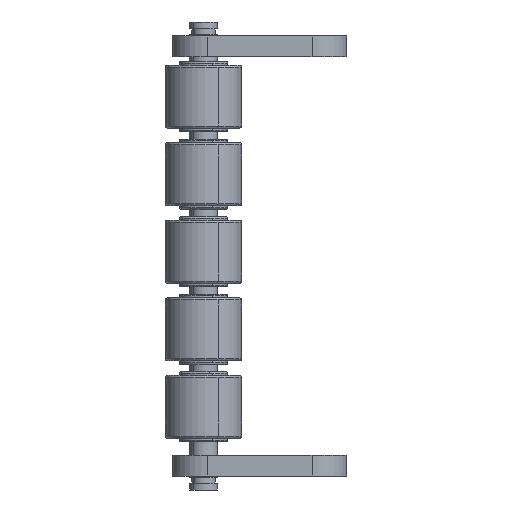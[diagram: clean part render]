
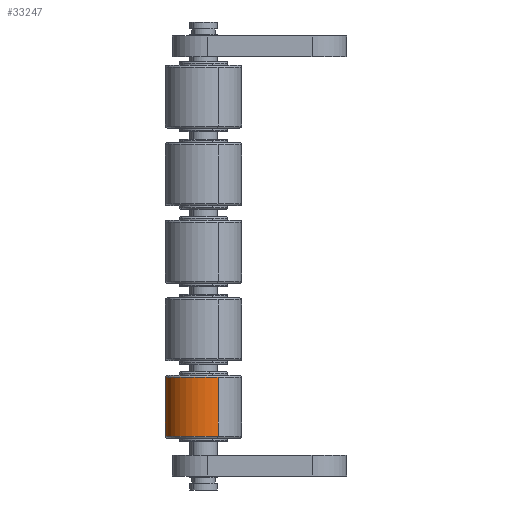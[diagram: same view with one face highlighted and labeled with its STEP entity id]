
A CAD part, left-side view. The second image highlights one B-rep face of the part: STEP entity #33247.
In plain terms, the highlighted cylindrical face has radius 5.5 mm (diameter 11 mm), a partial arc.
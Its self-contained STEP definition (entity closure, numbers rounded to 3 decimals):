
#3488 = CIRCLE ( 'NONE', #3527, 5.5 ) ;
#3489 = CARTESIAN_POINT ( 'NONE',  ( 116.925, -90.774, 21.075 ) ) ;
#3518 = DIRECTION ( 'NONE',  ( 0., 0., -1. ) ) ;
#3519 = AXIS2_PLACEMENT_3D ( 'NONE', #3528, #3518, #3577 ) ;
#3524 = CIRCLE ( 'NONE', #3519, 5.5 ) ;
#3525 = DIRECTION ( 'NONE',  ( 0.925, 0.379, 0. ) ) ;
#3526 = DIRECTION ( 'NONE',  ( 0., 0., -1. ) ) ;
#3527 = AXIS2_PLACEMENT_3D ( 'NONE', #3535, #3526, #3525 ) ;
#3528 = CARTESIAN_POINT ( 'NONE',  ( 122.014, -88.689, 21.075 ) ) ;
#3529 = CARTESIAN_POINT ( 'NONE',  ( 127.103, -86.604, 21.075 ) ) ;
#3535 = CARTESIAN_POINT ( 'NONE',  ( 122.014, -88.689, 21.075 ) ) ;
#3536 = CARTESIAN_POINT ( 'NONE',  ( 116.925, -90.774, 20.375 ) ) ;
#3537 = LINE ( 'NONE', #3536, #3551 ) ;
#3550 = DIRECTION ( 'NONE',  ( 0., 0., 1. ) ) ;
#3551 = VECTOR ( 'NONE', #3550, 1000. ) ;
#3558 = CARTESIAN_POINT ( 'NONE',  ( 116.925, -90.774, 12.675 ) ) ;
#3559 = CARTESIAN_POINT ( 'NONE',  ( 127.103, -86.604, 12.675 ) ) ;
#3574 = CIRCLE ( 'NONE', #3599, 5.5 ) ;
#3577 = DIRECTION ( 'NONE',  ( 0.925, 0.379, 0. ) ) ;
#3596 = DIRECTION ( 'NONE',  ( 0.925, 0.379, 0. ) ) ;
#3597 = DIRECTION ( 'NONE',  ( 0., 0., 1. ) ) ;
#3598 = CARTESIAN_POINT ( 'NONE',  ( 122.014, -88.689, 12.675 ) ) ;
#3599 = AXIS2_PLACEMENT_3D ( 'NONE', #3598, #3597, #3596 ) ;
#3663 = DIRECTION ( 'NONE',  ( 0., 0., 1. ) ) ;
#3664 = VECTOR ( 'NONE', #3663, 1000. ) ;
#3665 = CARTESIAN_POINT ( 'NONE',  ( 127.103, -86.604, 20.375 ) ) ;
#3666 = LINE ( 'NONE', #3665, #3664 ) ;
#3690 = FACE_OUTER_BOUND ( 'NONE', #33177, .T. ) ;
#3693 = DIRECTION ( 'NONE',  ( 0., 0., 1. ) ) ;
#3707 = AXIS2_PLACEMENT_3D ( 'NONE', #3746, #3693, #3731 ) ;
#3714 = CARTESIAN_POINT ( 'NONE',  ( 119.929, -83.599, 21.075 ) ) ;
#3728 = CYLINDRICAL_SURFACE ( 'NONE', #3707, 5.5 ) ;
#3731 = DIRECTION ( 'NONE',  ( 0.925, 0.379, 0. ) ) ;
#3746 = CARTESIAN_POINT ( 'NONE',  ( 122.014, -88.689, 20.375 ) ) ;
#32984 = ORIENTED_EDGE ( 'NONE', *, *, #33137, .T. ) ;
#33025 = ORIENTED_EDGE ( 'NONE', *, *, #33213, .F. ) ;
#33122 = EDGE_CURVE ( 'NONE', #33139, #33251, #3488, .T. ) ;
#33124 = VERTEX_POINT ( 'NONE', #3529 ) ;
#33125 = EDGE_CURVE ( 'NONE', #33251, #33124, #3524, .T. ) ;
#33131 = ORIENTED_EDGE ( 'NONE', *, *, #33122, .T. ) ;
#33132 = VERTEX_POINT ( 'NONE', #3559 ) ;
#33134 = VERTEX_POINT ( 'NONE', #3558 ) ;
#33136 = EDGE_CURVE ( 'NONE', #33134, #33139, #3537, .T. ) ;
#33137 = EDGE_CURVE ( 'NONE', #33132, #33134, #3574, .T. ) ;
#33139 = VERTEX_POINT ( 'NONE', #3489 ) ;
#33155 = ORIENTED_EDGE ( 'NONE', *, *, #33125, .T. ) ;
#33177 = EDGE_LOOP ( 'NONE', ( #32984, #33250, #33131, #33155, #33025 ) ) ;
#33213 = EDGE_CURVE ( 'NONE', #33132, #33124, #3666, .T. ) ;
#33247 = ADVANCED_FACE ( 'NONE', ( #3690 ), #3728, .T. ) ;
#33250 = ORIENTED_EDGE ( 'NONE', *, *, #33136, .T. ) ;
#33251 = VERTEX_POINT ( 'NONE', #3714 ) ;
